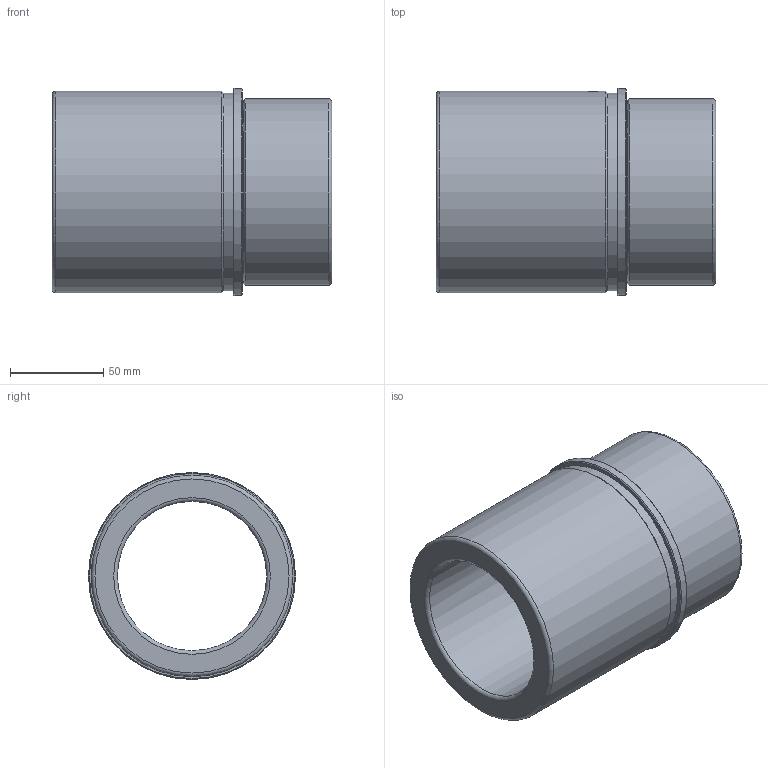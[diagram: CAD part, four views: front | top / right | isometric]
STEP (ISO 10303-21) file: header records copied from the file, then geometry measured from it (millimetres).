
FILE_DESCRIPTION( ( 'STEP AP214' ), '1' );
FILE_NAME( 'p:/temp/worker_30/temp/exporttempdir_5852_186_TKjis/format_1/WZ - 4055 80 x 150.stp', '2020-12-04T19:48:34', ( 'License CC BY-ND 4.0' ), ( 'CADENAS' ), ' ', 'PARTsolutions', ' ' );
FILE_SCHEMA( ( 'AUTOMOTIVE_DESIGN { 1 0 10303 214 1 1 1 1 }' ) );
Length unit declared in the file: millimetre
Products named in the file (1): _WZ - 4055 80 x 150
Bounding box: 150 x 111 x 111 mm (x, y, z)
Volume: 555412.4 mm3; surface area: 97111.3 mm2
Topology: 1 solids, 1 shells, 21 faces, 38 edges, 22 vertices
Faces by surface type: cylinder 7, cone 5, plane 5, torus 4
Full cylindrical faces by diameter (mm): 8.376 x1, 80 x1, 98 x1, 100 x1, 106 x1, 108 x1, 111 x1
Entity records: 750 total; most frequent: CARTESIAN_POINT 196, DIRECTION 84, EDGE_LOOP 44, ORIENTED_EDGE 44, AXIS2_PLACEMENT_3D 42, FACE_OUTER_BOUND 32, EDGE_CURVE 22, VERTEX_POINT 22
